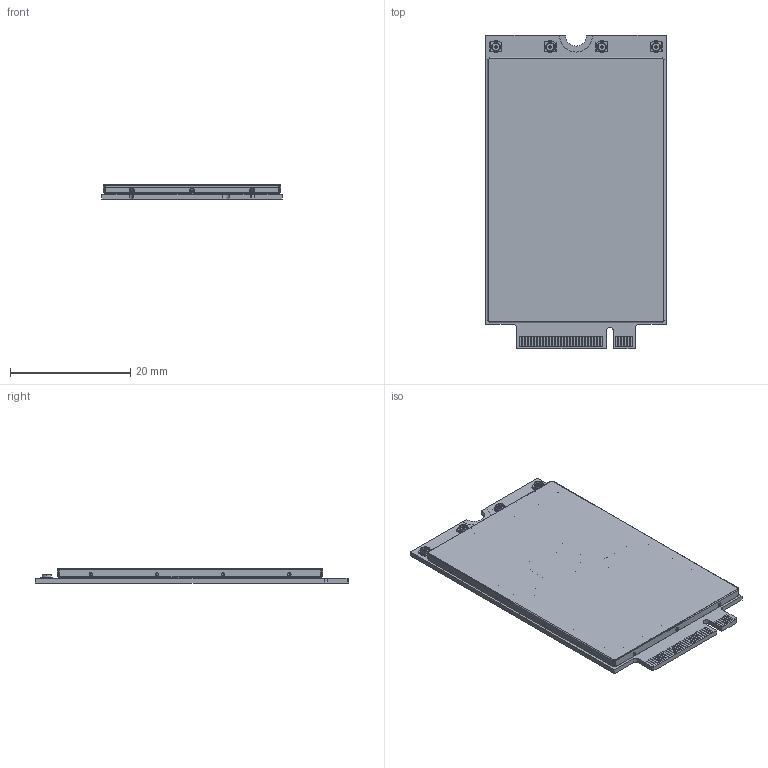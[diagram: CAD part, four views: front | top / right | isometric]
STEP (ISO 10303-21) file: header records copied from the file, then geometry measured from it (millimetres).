
FILE_DESCRIPTION((''),'2;1');
FILE_NAME('QUECTEL_RM500U-CN_3D_DIMENSIONS_ASM','2021-01-23T',('levi.zhu'),(''),'CREO PARAMETRIC BY PTC INC, 2014190','CREO PARAMETRIC BY PTC INC, 2014190','');
FILE_SCHEMA(('CONFIG_CONTROL_DESIGN'));
Length unit declared in the file: millimetre
Products named in the file (8): RM500U-CN_PCB_V1-1_R1_20201217_; RM500U-CN_FRAME_V1-1_R1_11; RM500U-CN_COVER_V1-1_R1_3; COAXIAL_CONNECTOR_06-RM500U_1; PRT0001_1; PRT0002_1; RM500U-CN_V1-1_ASSY_ASM_10_ASM; QUECTEL_RM500U-CN_3D_DIMENSIONS_ASM
Assembly tree (8 placements, depth 3):
  QUECTEL_RM500U-CN_3D_DIMENSIONS_ASM
    RM500U-CN_V1-1_ASSY_ASM_10_ASM
      RM500U-CN_PCB_V1-1_R1_20201217_
      RM500U-CN_FRAME_V1-1_R1_11
      RM500U-CN_COVER_V1-1_R1_3
      COAXIAL_CONNECTOR_06-RM500U_1  x2
      PRT0001_1
      PRT0002_1
Bounding box: 30 x 52 x 2.39 mm (x, y, z)
Volume: 1561.2 mm3; surface area: 7782.7 mm2
Topology: 7 solids, 7 shells, 884 faces, 2226 edges, 1432 vertices
Faces by surface type: plane 661, cylinder 159, sphere 56, torus 8
Entity records: 32056 total; most frequent: CARTESIAN_POINT 4318, DIRECTION 4255, ORIENTED_EDGE 4154, PRESENTATION_STYLE_ASSIGNMENT 2178, STYLED_ITEM 2084, CURVE_STYLE 2077, EDGE_CURVE 2077, VECTOR 1641
